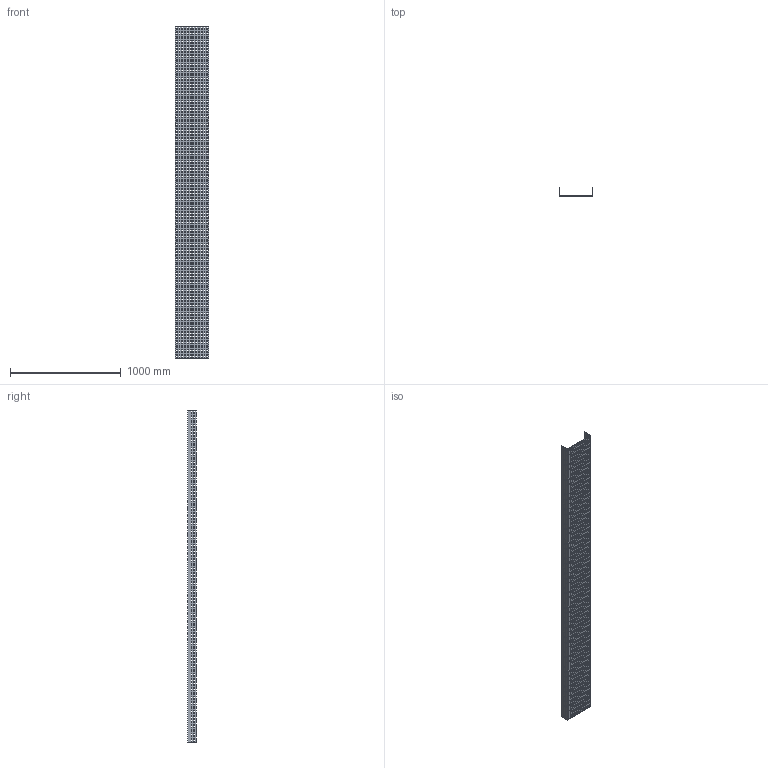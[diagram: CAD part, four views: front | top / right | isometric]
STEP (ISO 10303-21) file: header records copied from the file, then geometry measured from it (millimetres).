
FILE_DESCRIPTION (( 'STEP AP214' ), '1' );
FILE_NAME ('01F3C300.step', '2025-02-21T13:28:14', ( '' ), ( '' ), 'SwSTEP 2.0', 'SolidWorks 2023', '' );
FILE_SCHEMA (( 'AUTOMOTIVE_DESIGN' ));
Products named in the file (1): 01F3C300
Bounding box: 304 x 79 x 3000 mm (x, y, z)
Volume: 4071900 mm3; surface area: 2609033 mm2
Topology: 1 solids, 1 shells, 4618 faces, 13848 edges, 9232 vertices
Faces by surface type: plane 4618
Entity records: 156983 total; most frequent: CARTESIAN_POINT 27699, ORIENTED_EDGE 27696, DIRECTION 23086, LINE 13848, EDGE_CURVE 13848, VECTOR 13848, VERTEX_POINT 9232, EDGE_LOOP 6922
